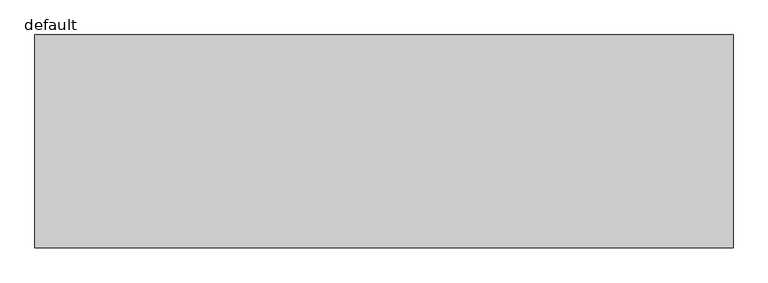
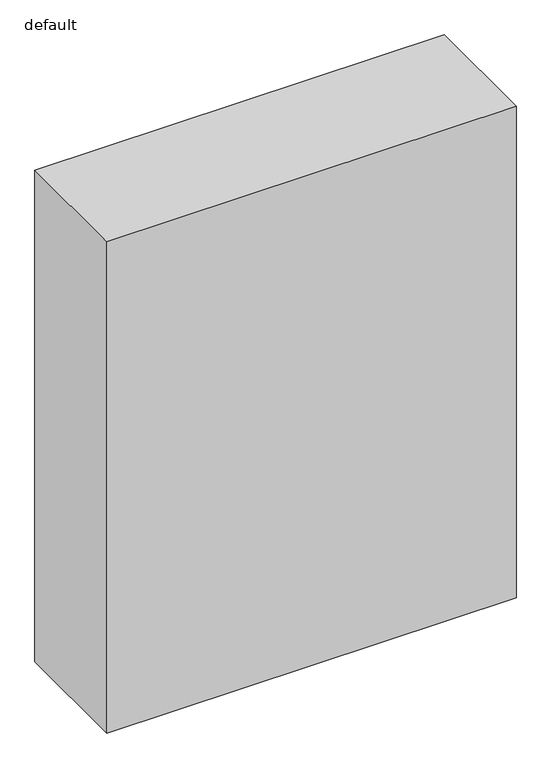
"""IFC4 building model written with IfcOpenShell, lengths in millimetres: furniture geometry, Fu_шкаф встроенный_LEG : default."""

from ifc_helpers import new_model, si_unit, origin, origin_with_axes, place, context, project, spatial, polyline, outline, extrude, source, transform, mapped, element, save


def default_f057042a(model_context):
    return source(origin(), model_context, "Body", "SweptSolid", [
        extrude(outline(polyline([(1970.0, 0.0), (1970.0, -600.0), (0.0, -600.0), (0.0, 0.0), (1970.0, 0.0)])), origin_with_axes(), (0.0, 0.0, 1.0), 2500.0),
    ])


if __name__ == "__main__":
    model = new_model("IFC4")
    model_context = context("Model", 3, world=origin())
    ifc_project = project(units=[si_unit("LENGTHUNIT", "METRE", prefix="MILLI")], contexts=[model_context])
    site = spatial("IfcSite", under=ifc_project)
    building = spatial("IfcBuilding", under=site)
    placement = place(None, origin())
    default_shape = default_f057042a(model_context)
    element("IfcFurniture", 1, ObjectType="Fu_шкаф встроенный_LEG : default", at=placement, inside=building, context=model_context, shape_type="MappedRepresentation", body=[
        mapped(default_shape, transform((0.0, 0.0, 0.0), x_axis=(1.0, 0.0, 0.0), y_axis=(0.0, 1.0, 0.0), z_axis=(0.0, 0.0, 1.0))),
    ])
    save(model, "model.ifc")
